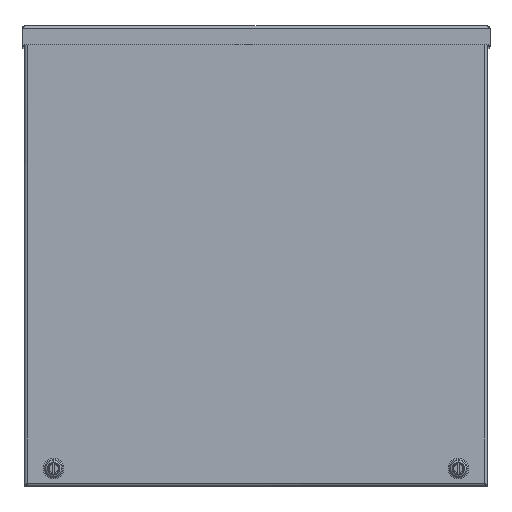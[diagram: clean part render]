
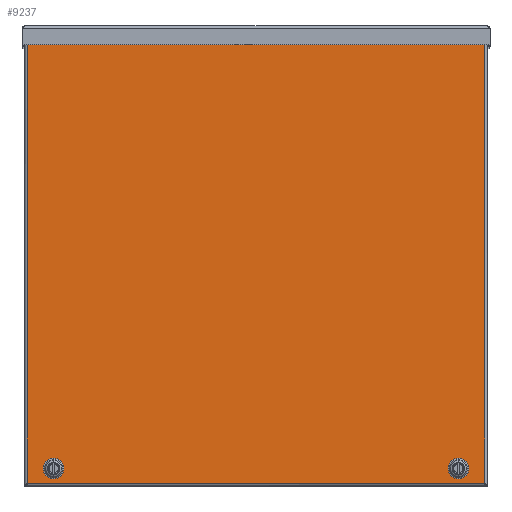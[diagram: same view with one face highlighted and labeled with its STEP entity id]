
A CAD part, top view. The second image highlights one B-rep face of the part: STEP entity #9237.
In plain terms, the highlighted planar face has unit normal (0, 0, 1).
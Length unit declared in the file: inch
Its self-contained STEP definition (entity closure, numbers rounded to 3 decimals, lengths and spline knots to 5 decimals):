
#6 = CARTESIAN_POINT ( 'NONE',  ( -8., -8.34, 0.055 ) ) ;
#230 = CARTESIAN_POINT ( 'NONE',  ( -9.035, 9.03, 0.055 ) ) ;
#333 = DIRECTION ( 'NONE',  ( -1., 0., 0. ) ) ;
#628 = CARTESIAN_POINT ( 'NONE',  ( 9.035, -8.97359, 0.055 ) ) ;
#716 = DIRECTION ( 'NONE',  ( 0., 1., 0. ) ) ;
#1194 = DIRECTION ( 'NONE',  ( 0., 1., 0. ) ) ;
#1375 = LINE ( 'NONE', #10439, #19242 ) ;
#1412 = EDGE_LOOP ( 'NONE', ( #10291, #17783 ) ) ;
#1549 = DIRECTION ( 'NONE',  ( 0., 1., 0. ) ) ;
#1618 = VECTOR ( 'NONE', #716, 39.37008 ) ;
#1646 = DIRECTION ( 'NONE',  ( 0., 0., 1. ) ) ;
#1791 = DIRECTION ( 'NONE',  ( 0., 0., 1. ) ) ;
#2094 = CARTESIAN_POINT ( 'NONE',  ( 9.15, 9.03, 0.055 ) ) ;
#2118 = CARTESIAN_POINT ( 'NONE',  ( -8.275, 9.03, 0.055 ) ) ;
#2711 = VECTOR ( 'NONE', #13400, 39.37008 ) ;
#2800 = DIRECTION ( 'NONE',  ( 0., 0., 1. ) ) ;
#2906 = EDGE_CURVE ( 'NONE', #15706, #17883, #18504, .T. ) ;
#3177 = DIRECTION ( 'NONE',  ( 0., -1., 0. ) ) ;
#3307 = CARTESIAN_POINT ( 'NONE',  ( -9.09359, -8.915, 0.055 ) ) ;
#3603 = LINE ( 'NONE', #15985, #7084 ) ;
#4397 = AXIS2_PLACEMENT_3D ( 'NONE', #12173, #2800, #1194 ) ;
#4767 = DIRECTION ( 'NONE',  ( 0., 1., 0. ) ) ;
#4878 = VERTEX_POINT ( 'NONE', #18848 ) ;
#5013 = DIRECTION ( 'NONE',  ( 1., 0., 0. ) ) ;
#5116 = PLANE ( 'NONE',  #8646 ) ;
#5352 = CIRCLE ( 'NONE', #4397, 0.40541 ) ;
#5379 = EDGE_CURVE ( 'NONE', #17370, #19842, #5352, .T. ) ;
#5767 = VERTEX_POINT ( 'NONE', #16448 ) ;
#5846 = EDGE_CURVE ( 'NONE', #19842, #17370, #19215, .T. ) ;
#6005 = VECTOR ( 'NONE', #15719, 39.37008 ) ;
#6103 = VERTEX_POINT ( 'NONE', #14732 ) ;
#6551 = VERTEX_POINT ( 'NONE', #12895 ) ;
#6552 = EDGE_CURVE ( 'NONE', #4878, #11608, #9571, .T. ) ;
#6570 = EDGE_CURVE ( 'NONE', #5767, #4878, #6652, .T. ) ;
#6652 = LINE ( 'NONE', #11382, #18570 ) ;
#7084 = VECTOR ( 'NONE', #9742, 39.37008 ) ;
#7468 = DIRECTION ( 'NONE',  ( 0., 0., 1. ) ) ;
#7500 = EDGE_CURVE ( 'NONE', #15341, #6103, #1375, .T. ) ;
#7536 = EDGE_LOOP ( 'NONE', ( #16857, #16000 ) ) ;
#7839 = ORIENTED_EDGE ( 'NONE', *, *, #6552, .T. ) ;
#8224 = ORIENTED_EDGE ( 'NONE', *, *, #11493, .T. ) ;
#8283 = LINE ( 'NONE', #628, #1618 ) ;
#8467 = DIRECTION ( 'NONE',  ( 0., 1., 0. ) ) ;
#8646 = AXIS2_PLACEMENT_3D ( 'NONE', #2094, #1791, #5013 ) ;
#9237 = ADVANCED_FACE ( 'NONE', ( #15887, #12865, #18712 ), #5116, .T. ) ;
#9571 = LINE ( 'NONE', #12999, #6005 ) ;
#9742 = DIRECTION ( 'NONE',  ( -1., 0., 0. ) ) ;
#10291 = ORIENTED_EDGE ( 'NONE', *, *, #5846, .F. ) ;
#10404 = AXIS2_PLACEMENT_3D ( 'NONE', #11686, #13207, #8467 ) ;
#10439 = CARTESIAN_POINT ( 'NONE',  ( 8.275, 9.03, 0.055 ) ) ;
#10451 = CARTESIAN_POINT ( 'NONE',  ( -9.035, -8.915, 0.055 ) ) ;
#10472 = LINE ( 'NONE', #17756, #2711 ) ;
#10874 = AXIS2_PLACEMENT_3D ( 'NONE', #6, #7468, #4767 ) ;
#10900 = EDGE_CURVE ( 'NONE', #11608, #15706, #3603, .T. ) ;
#11041 = CIRCLE ( 'NONE', #10404, 0.40541 ) ;
#11382 = CARTESIAN_POINT ( 'NONE',  ( 8.275, 8.91501, 0.055 ) ) ;
#11392 = VERTEX_POINT ( 'NONE', #15643 ) ;
#11493 = EDGE_CURVE ( 'NONE', #6551, #15341, #8283, .T. ) ;
#11608 = VERTEX_POINT ( 'NONE', #2118 ) ;
#11686 = CARTESIAN_POINT ( 'NONE',  ( -8., -8.34, 0.055 ) ) ;
#11850 = CARTESIAN_POINT ( 'NONE',  ( 9.035, 9.03, 0.055 ) ) ;
#12115 = ORIENTED_EDGE ( 'NONE', *, *, #6570, .T. ) ;
#12173 = CARTESIAN_POINT ( 'NONE',  ( 8., -8.34, 0.055 ) ) ;
#12357 = EDGE_LOOP ( 'NONE', ( #14452, #19219, #12115, #7839, #16751, #14604, #15774, #8224 ) ) ;
#12677 = LINE ( 'NONE', #3307, #16529 ) ;
#12692 = DIRECTION ( 'NONE',  ( -1., 0., 0. ) ) ;
#12828 = CARTESIAN_POINT ( 'NONE',  ( 8., -7.93459, 0.055 ) ) ;
#12865 = FACE_BOUND ( 'NONE', #1412, .T. ) ;
#12895 = CARTESIAN_POINT ( 'NONE',  ( 9.035, -8.915, 0.055 ) ) ;
#12999 = CARTESIAN_POINT ( 'NONE',  ( -8.275, 9.03, 0.055 ) ) ;
#13207 = DIRECTION ( 'NONE',  ( 0., 0., 1. ) ) ;
#13400 = DIRECTION ( 'NONE',  ( 0., -1., 0. ) ) ;
#13668 = CARTESIAN_POINT ( 'NONE',  ( -8., -7.93459, 0.055 ) ) ;
#13956 = CARTESIAN_POINT ( 'NONE',  ( -9.035, 9.03, 0.055 ) ) ;
#14086 = DIRECTION ( 'NONE',  ( 1., 0., 0. ) ) ;
#14356 = VECTOR ( 'NONE', #3177, 39.37008 ) ;
#14452 = ORIENTED_EDGE ( 'NONE', *, *, #7500, .T. ) ;
#14604 = ORIENTED_EDGE ( 'NONE', *, *, #2906, .T. ) ;
#14732 = CARTESIAN_POINT ( 'NONE',  ( 8.275, 9.03, 0.055 ) ) ;
#14810 = EDGE_CURVE ( 'NONE', #18116, #11392, #11041, .T. ) ;
#15046 = CIRCLE ( 'NONE', #10874, 0.40541 ) ;
#15196 = EDGE_CURVE ( 'NONE', #17883, #6551, #12677, .T. ) ;
#15341 = VERTEX_POINT ( 'NONE', #11850 ) ;
#15349 = CARTESIAN_POINT ( 'NONE',  ( 8., -8.34, 0.055 ) ) ;
#15643 = CARTESIAN_POINT ( 'NONE',  ( -8., -8.74541, 0.055 ) ) ;
#15706 = VERTEX_POINT ( 'NONE', #230 ) ;
#15719 = DIRECTION ( 'NONE',  ( 0., 1., 0. ) ) ;
#15774 = ORIENTED_EDGE ( 'NONE', *, *, #15196, .T. ) ;
#15887 = FACE_OUTER_BOUND ( 'NONE', #12357, .T. ) ;
#15985 = CARTESIAN_POINT ( 'NONE',  ( -9.15, 9.03, 0.055 ) ) ;
#16000 = ORIENTED_EDGE ( 'NONE', *, *, #18989, .F. ) ;
#16174 = EDGE_CURVE ( 'NONE', #6103, #5767, #10472, .T. ) ;
#16448 = CARTESIAN_POINT ( 'NONE',  ( 8.275, 8.91501, 0.055 ) ) ;
#16529 = VECTOR ( 'NONE', #14086, 39.37008 ) ;
#16751 = ORIENTED_EDGE ( 'NONE', *, *, #10900, .T. ) ;
#16857 = ORIENTED_EDGE ( 'NONE', *, *, #14810, .F. ) ;
#17370 = VERTEX_POINT ( 'NONE', #17615 ) ;
#17615 = CARTESIAN_POINT ( 'NONE',  ( 8., -8.74541, 0.055 ) ) ;
#17756 = CARTESIAN_POINT ( 'NONE',  ( 8.275, 9.03, 0.055 ) ) ;
#17783 = ORIENTED_EDGE ( 'NONE', *, *, #5379, .F. ) ;
#17883 = VERTEX_POINT ( 'NONE', #10451 ) ;
#18116 = VERTEX_POINT ( 'NONE', #13668 ) ;
#18504 = LINE ( 'NONE', #13956, #14356 ) ;
#18556 = AXIS2_PLACEMENT_3D ( 'NONE', #15349, #1646, #1549 ) ;
#18570 = VECTOR ( 'NONE', #12692, 39.37008 ) ;
#18712 = FACE_BOUND ( 'NONE', #7536, .T. ) ;
#18848 = CARTESIAN_POINT ( 'NONE',  ( -8.275, 8.91501, 0.055 ) ) ;
#18989 = EDGE_CURVE ( 'NONE', #11392, #18116, #15046, .T. ) ;
#19215 = CIRCLE ( 'NONE', #18556, 0.40541 ) ;
#19219 = ORIENTED_EDGE ( 'NONE', *, *, #16174, .T. ) ;
#19242 = VECTOR ( 'NONE', #333, 39.37008 ) ;
#19842 = VERTEX_POINT ( 'NONE', #12828 ) ;
